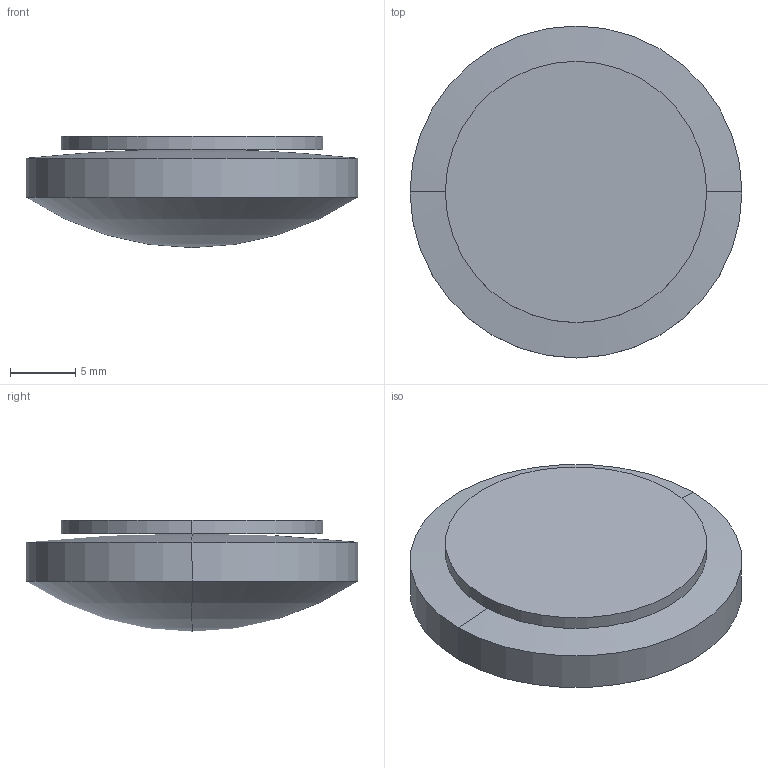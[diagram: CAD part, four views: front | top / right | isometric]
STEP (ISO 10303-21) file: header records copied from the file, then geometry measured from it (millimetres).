
FILE_DESCRIPTION(('STEP AP214'),'1');
FILE_NAME('LLU-25-40.STEP','2020-03-09T17:42:07',(' '),(' '),'Spatial InterOp 3D',' ',' ');
FILE_SCHEMA(('AUTOMOTIVE_DESIGN { 1 0 10303 214 1 1 1 1 }'));
Length unit declared in the file: millimetre
Products named in the file (1): 1
Bounding box: 25.4 x 25.4 x 8.5 mm (x, y, z)
Volume: 2996.6 mm3; surface area: 1989.7 mm2
Topology: 2 solids, 2 shells, 10 faces, 20 edges, 10 vertices
Faces by surface type: sphere 4, cylinder 4, plane 2
Entity records: 255 total; most frequent: DIRECTION 52, CARTESIAN_POINT 38, ORIENTED_EDGE 32, AXIS2_PLACEMENT_3D 24, EDGE_CURVE 16, CIRCLE 12, ADVANCED_FACE 10, FACE_OUTER_BOUND 10
